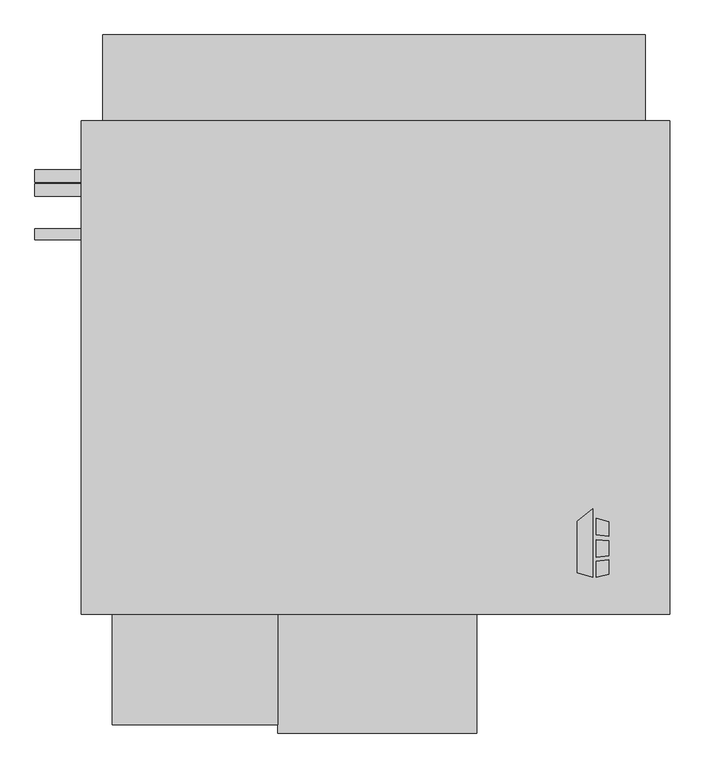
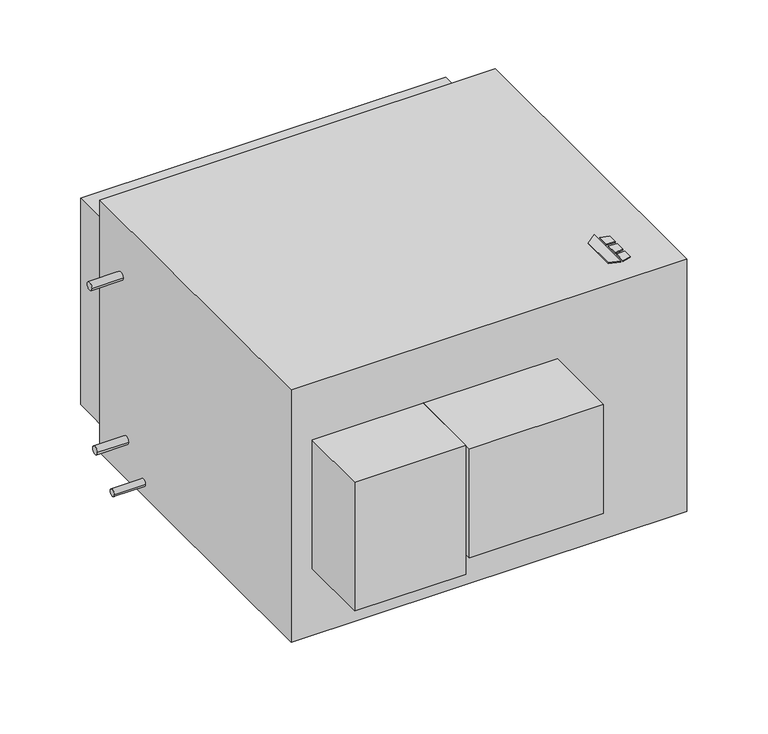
"""IFC4 building model written with IfcOpenShell, lengths in millimetres: proxy geometry, Horizontal_Direct_Drive_Blower_Coil_Unit_-_HDY_-_IEC_-_2-Pipe_Cool-EHeat_LH_2022 : Size 30 - 460v/60Hz/3Ph - 8 Row 30.0kW LH."""

import ifcopenshell
import ifcopenshell.guid

model = None  # the IFC model being written
_history = None  # IfcOwnerHistory: only IFC2X3 demands one
_inside = {}  # id of a spatial element -> (the spatial element, [elements in it])
_under = {}  # id of a project, library or spatial element -> (it, [spatial elements below it])
_declared = {}  # id of a project -> (the project, [libraries it declares])
_typed = {}  # id of a type object -> (the type object, [elements of that type])
_made_of = {}  # id of a material, layer set ... -> (it, [elements and type objects made of it])


def new_model(schema):
    """Start an empty IFC model of exactly this schema.

    Asked for "IFC4X3", IfcOpenShell would pick the latest addendum, in which some entities
    have other attributes; the version numbers below select the first issue.
    IFC2X3 requires an IfcOwnerHistory on every rooted entity: one is made here for all.
    """
    global model, _history
    if schema == "IFC4X3":
        model = ifcopenshell.file(schema_version=(4, 3, 0, 0))
    else:
        model = ifcopenshell.file(schema=schema)
    _inside.clear()
    _under.clear()
    _declared.clear()
    _typed.clear()
    _made_of.clear()
    _history = None
    if model.schema == "IFC2X3":
        org = make("IfcOrganization", Name="unknown")
        user = make(
            "IfcPersonAndOrganization",
            ThePerson=make("IfcPerson", FamilyName="unknown"),
            TheOrganization=org,
        )
        app = make(
            "IfcApplication",
            ApplicationDeveloper=org,
            Version="unknown",
            ApplicationFullName="unknown",
            ApplicationIdentifier="unknown",
        )
        _history = make(
            "IfcOwnerHistory",
            OwningUser=user,
            OwningApplication=app,
            ChangeAction="ADDED",
            CreationDate=0,
        )
    return model


def make(cls, **values):
    """One entity of the class cls with the attributes given. An attribute that is None is left unset."""
    return model.create_entity(
        cls, **{name: value for name, value in values.items() if value is not None}
    )


def rooted(cls, **values):
    """An entity with a GlobalId (a new one), such as an element, a storey or a relation."""
    return make(cls, GlobalId=ifcopenshell.guid.new(), OwnerHistory=_history, **values)


def si_unit(unit_type, name, prefix=None):
    """IfcSIUnit, for example si_unit("LENGTHUNIT", "METRE", prefix="MILLI")."""
    return make("IfcSIUnit", UnitType=unit_type, Prefix=prefix, Name=name)


def assignment(units):
    """IfcUnitAssignment: the units of a project."""
    return None if units is None else make("IfcUnitAssignment", Units=units)


def point(xyz):
    """IfcCartesianPoint."""
    return None if xyz is None else make("IfcCartesianPoint", Coordinates=xyz)


def direction(xyz):
    """IfcDirection."""
    return None if xyz is None else make("IfcDirection", DirectionRatios=xyz)


def frame(location, z_axis=None, x_axis=None):
    """IfcAxis2Placement3D, a coordinate frame: its origin and axes. An axis left out is left unset."""
    return make(
        "IfcAxis2Placement3D",
        Location=point(location),
        Axis=direction(z_axis),
        RefDirection=direction(x_axis),
    )


def frame_2d(location, x_axis=None):
    """IfcAxis2Placement2D, a coordinate frame in the plane: its origin and x axis."""
    return make(
        "IfcAxis2Placement2D", Location=point(location), RefDirection=direction(x_axis)
    )


def origin():
    """The frame at (0, 0, 0) with its axes left unset."""
    return frame((0.0, 0.0, 0.0))


def origin_with_axes():
    """The frame at (0, 0, 0) with the z axis (0, 0, 1) and the x axis (1, 0, 0) written out."""
    return frame((0.0, 0.0, 0.0), z_axis=(0.0, 0.0, 1.0), x_axis=(1.0, 0.0, 0.0))


def place(relative_to, where):
    """IfcLocalPlacement: puts the frame where relative to a parent placement (None: the world)."""
    return make(
        "IfcLocalPlacement", PlacementRelTo=relative_to, RelativePlacement=where
    )


def context(
    kind, dimensions, precision=None, world=None, true_north=None, identifier=None
):
    """IfcGeometricRepresentationContext, for example the 3D "Model" context."""
    return make(
        "IfcGeometricRepresentationContext",
        ContextIdentifier=identifier,
        ContextType=kind,
        CoordinateSpaceDimension=dimensions,
        Precision=precision,
        WorldCoordinateSystem=world,
        TrueNorth=true_north,
    )


def project(units=None, contexts=None):
    """IfcProject with its units and contexts."""
    return rooted(
        "IfcProject",
        Name="project",
        RepresentationContexts=contexts,
        UnitsInContext=assignment(units),
    )


def spatial(cls, under=None, at=None, **own):
    """A site, building, storey or space (cls), placed at a placement, below another one or the project."""
    s = rooted(cls, ObjectPlacement=at, **own)
    if under is not None:
        _under.setdefault(under.id(), (under, []))[1].append(s)
    return s


def polyline(points):
    """IfcPolyline through the points."""
    return make("IfcPolyline", Points=[point(p) for p in points])


def circle_curve(where, radius):
    """IfcCircle in the frame where."""
    return make("IfcCircle", Position=where, Radius=radius)


def trimmed(basis, trim1, trim2, sense, master):
    """IfcTrimmedCurve: the piece of a basis curve between two trims."""
    return make(
        "IfcTrimmedCurve",
        BasisCurve=basis,
        Trim1=trim1,
        Trim2=trim2,
        SenseAgreement=sense,
        MasterRepresentation=master,
    )


def segment(curve, same_sense, transition):
    """IfcCompositeCurveSegment."""
    return make(
        "IfcCompositeCurveSegment",
        Transition=transition,
        SameSense=same_sense,
        ParentCurve=curve,
    )


def composite_curve(segments, self_intersect=None):
    """IfcCompositeCurve: segments joined end to end."""
    return make("IfcCompositeCurve", Segments=segments, SelfIntersect=self_intersect)


def outline(outer, holes=None, kind="AREA"):
    """IfcArbitraryClosedProfileDef: a profile drawn as a closed curve; with holes, ...WithVoids."""
    if holes is None:
        return make("IfcArbitraryClosedProfileDef", ProfileType=kind, OuterCurve=outer)
    return make(
        "IfcArbitraryProfileDefWithVoids",
        ProfileType=kind,
        OuterCurve=outer,
        InnerCurves=holes,
    )


def extrude(swept, where, along, depth):
    """IfcExtrudedAreaSolid: the profile swept, set in the frame where, extruded along a direction by depth."""
    return make(
        "IfcExtrudedAreaSolid",
        SweptArea=swept,
        Position=where,
        ExtrudedDirection=direction(along),
        Depth=depth,
    )


def shape(context_of_items, identifier, shape_type, items):
    """IfcShapeRepresentation: the items that make up one representation, for example the "Body"."""
    return make(
        "IfcShapeRepresentation",
        ContextOfItems=context_of_items,
        RepresentationIdentifier=identifier,
        RepresentationType=shape_type,
        Items=items,
    )


def source(mapping_origin, context_of_items, identifier, shape_type, items):
    """IfcRepresentationMap: a shape defined once, which mapped items show again and again."""
    return make(
        "IfcRepresentationMap",
        MappingOrigin=mapping_origin,
        MappedRepresentation=shape(context_of_items, identifier, shape_type, items),
    )


def transform(
    local_origin,
    x_axis=None,
    y_axis=None,
    z_axis=None,
    scale=None,
    scale2=None,
    scale3=None,
    uniform=True,
):
    """IfcCartesianTransformationOperator3D, or its non-uniform kind. x_axis, y_axis, z_axis: its Axis1, 2, 3."""
    if uniform:
        return make(
            "IfcCartesianTransformationOperator3D",
            Axis1=direction(x_axis),
            Axis2=direction(y_axis),
            LocalOrigin=point(local_origin),
            Scale=scale,
            Axis3=direction(z_axis),
        )
    return make(
        "IfcCartesianTransformationOperator3DnonUniform",
        Axis1=direction(x_axis),
        Axis2=direction(y_axis),
        LocalOrigin=point(local_origin),
        Scale=scale,
        Axis3=direction(z_axis),
        Scale2=scale2,
        Scale3=scale3,
    )


def mapped(mapping_source, mapping_target):
    """IfcMappedItem: shows the shape of a source again, moved by a transform."""
    return make(
        "IfcMappedItem", MappingSource=mapping_source, MappingTarget=mapping_target
    )


def made_of(thing, what):
    """Note that an element or type object is made of a material, layer set ...; save() writes the relation."""
    if what is not None:
        _made_of.setdefault(what.id(), (what, []))[1].append(thing)
    return thing


def element(
    cls,
    number,
    at=None,
    inside=None,
    cuts=None,
    type_object=None,
    material=None,
    context=None,
    identifier="Body",
    shape_type=None,
    held_by="IfcProductDefinitionShape",
    body=None,
    shapes=None,
    **own,
):
    """One element of the class cls, such as IfcWall. Its Tag is "e" and its number.

    at: its placement. inside: the storey or other place that contains it. cuts: it is an
    opening in that element (IfcRelVoidsElement). A single representation is given by context,
    identifier, shape_type and body (its items); several are given by shapes. held_by: the class
    of the entity that holds the representations. save() writes the other relations.
    """
    e = rooted(cls, Tag="e%d" % number, ObjectPlacement=at, **own)
    if body is not None:
        shapes = [shape(context, identifier, shape_type, body)]
    if shapes is not None:
        e.Representation = make(held_by, Representations=shapes)
    if inside is not None:
        _inside.setdefault(inside.id(), (inside, []))[1].append(e)
    if cuts is not None:
        rooted(
            "IfcRelVoidsElement", RelatingBuildingElement=cuts, RelatedOpeningElement=e
        )
    if type_object is not None:
        _typed.setdefault(type_object.id(), (type_object, []))[1].append(e)
    return made_of(e, material)


def aggregate(whole, parts):
    """IfcRelAggregates: a whole, such as a stair, and the parts it consists of."""
    return rooted("IfcRelAggregates", RelatingObject=whole, RelatedObjects=parts)


def save(model, path):
    """Write the relations noted so far, then the file.

    IfcRelAggregates (storeys below a building ...), IfcRelContainedInSpatialStructure (elements
    in a storey), IfcRelDefinesByType, IfcRelAssociatesMaterial and IfcRelDeclares: one each for
    every whole, place, type object, material and project.
    """
    for whole, parts in _under.values():
        aggregate(whole, parts)
    for where, things in _inside.values():
        rooted(
            "IfcRelContainedInSpatialStructure",
            RelatedElements=things,
            RelatingStructure=where,
        )
    for kind, things in _typed.values():
        rooted("IfcRelDefinesByType", RelatedObjects=things, RelatingType=kind)
    for what, things in _made_of.values():
        rooted("IfcRelAssociatesMaterial", RelatedObjects=things, RelatingMaterial=what)
    for by, libraries in _declared.values():
        rooted("IfcRelDeclares", RelatingContext=by, RelatedDefinitions=libraries)
    model.write(path)


def mechanical_equipment_dd2f1071(model_context):
    return source(origin(), model_context, "Body", "SweptSolid", [
        extrude(outline(polyline([(-39.9980239, -337.5078476), (-7.4397272, -312.0705184), (-7.4397272, -454.025), (-39.9980239, -443.8054201), (-39.9980239, -337.5078476)])), origin_with_axes(), (0.0, 0.0, 1.0), 3.175),
        extrude(outline(polyline([(-0.6813942, -365.379852), (-0.6813942, -330.8999379), (25.4, -339.0865115), (25.4, -368.5822446), (-0.6813942, -365.379852)])), origin_with_axes(), (0.0, 0.0, 1.0), 3.175),
        extrude(outline(polyline([(25.4, -447.0365115), (-0.6813942, -454.025), (-0.6813942, -420.8036996), (25.4, -417.2618564), (25.4, -447.0365115)])), origin_with_axes(), (0.0, 0.0, 1.0), 3.175),
        extrude(outline(polyline([(25.4, -377.6638277), (25.4, -408.913983), (-0.6813942, -411.655248), (-0.6813942, -375.7975378), (25.4, -377.6638277)])), origin_with_axes(), (0.0, 0.0, 1.0), 3.175),
        extrude(outline(composite_curve([segment(trimmed(circle_curve(frame_2d((377.825, -177.8)), 12.7), [point((365.125, -177.8))], [point((390.525, -177.8))], False, "CARTESIAN"), True, "CONTINUOUS"), segment(trimmed(circle_curve(frame_2d((377.825, -177.8)), 12.7), [point((390.525, -177.8))], [point((365.125, -177.8))], False, "CARTESIAN"), True, "CONTINUOUS")], self_intersect=False)), frame((-1163.1025559, 0.0, 0.0), z_axis=(1.0, 0.0, 0.0), x_axis=(0.0, 1.0, 0.0)), (0.0, 0.0, 1.0), 96.3025559),
        extrude(outline(composite_curve([segment(trimmed(circle_curve(frame_2d((348.9715397, -695.3058174)), 12.7), [point((336.2715397, -695.3058174))], [point((361.6715397, -695.3058174))], False, "CARTESIAN"), True, "CONTINUOUS"), segment(trimmed(circle_curve(frame_2d((348.9715397, -695.3058174)), 12.7), [point((361.6715397, -695.3058174))], [point((336.2715397, -695.3058174))], False, "CARTESIAN"), True, "CONTINUOUS")], self_intersect=False)), frame((-1163.1025559, 0.0, 0.0), z_axis=(1.0, 0.0, 0.0), x_axis=(0.0, 1.0, 0.0)), (0.0, 0.0, 1.0), 96.3025559),
        extrude(outline(composite_curve([segment(trimmed(circle_curve(frame_2d((257.175, -777.8558174)), 11.1125), [point((246.0625, -777.8558174))], [point((268.2875, -777.8558174))], False, "CARTESIAN"), True, "CONTINUOUS"), segment(trimmed(circle_curve(frame_2d((257.175, -777.8558174)), 11.1125), [point((268.2875, -777.8558174))], [point((246.0625, -777.8558174))], False, "CARTESIAN"), True, "CONTINUOUS")], self_intersect=False)), frame((-1163.1025559, 0.0, 0.0), z_axis=(1.0, 0.0, 0.0), x_axis=(0.0, 1.0, 0.0)), (0.0, 0.0, 1.0), 96.3025559),
        extrude(outline(polyline([(152.4, 492.125), (152.4, -530.225), (-1066.8, -530.225), (-1066.8, 492.125), (152.4, 492.125)])), frame((0.0, 0.0, -822.3058174), z_axis=(0.0, 0.0, 1.0), x_axis=(1.0, 0.0, 0.0)), (0.0, 0.0, 1.0), 822.3058174),
        extrude(outline(polyline([(-660.4, -758.825), (-1003.3, -758.825), (-1003.3, -530.225), (-660.4, -530.225), (-660.4, -758.825)])), frame((0.0, 0.0, -603.2308174), z_axis=(0.0, 0.0, 1.0), x_axis=(1.0, 0.0, 0.0)), (0.0, 0.0, 1.0), 419.1),
        extrude(outline(polyline([(-1022.35, 669.925), (101.6, 669.925), (101.6, 492.125), (-1022.35, 492.125), (-1022.35, 669.925)])), frame((0.0, 0.0, -790.5558174), z_axis=(0.0, 0.0, 1.0), x_axis=(1.0, 0.0, 0.0)), (0.0, 0.0, 1.0), 673.1),
        extrude(outline(polyline([(-247.65, -776.2875), (-660.4, -776.2875), (-660.4, -530.225), (-247.65, -530.225), (-247.65, -776.2875)])), frame((0.0, 0.0, -539.7308174), z_axis=(0.0, 0.0, 1.0), x_axis=(1.0, 0.0, 0.0)), (0.0, 0.0, 1.0), 355.6),
    ])


if __name__ == "__main__":
    model = new_model("IFC4")
    model_context = context("Model", 3, world=origin())
    ifc_project = project(units=[si_unit("LENGTHUNIT", "METRE", prefix="MILLI")], contexts=[model_context])
    site = spatial("IfcSite", under=ifc_project)
    building = spatial("IfcBuilding", under=site)
    placement = place(None, origin())
    mechanical_equipment_shape = mechanical_equipment_dd2f1071(model_context)
    element("IfcBuildingElementProxy", 1, Name="Horizontal_Direct_Drive_Blower_Coil_Unit_-_HDY_-_IEC_-_2-Pipe_Cool-EHeat_LH_2022 : Size 30 - 460v/60Hz/3Ph - 8 Row 30.0kW LH", ObjectType="Horizontal_Direct_Drive_Blower_Coil_Unit_-_HDY_-_IEC_-_2-Pipe_Cool-EHeat_LH_2022 : Size 30 - 460v/60Hz/3Ph - 8 Row 30.0kW LH", at=placement, inside=building, context=model_context, shape_type="MappedRepresentation", body=[
        mapped(mechanical_equipment_shape, transform((0.0, 0.0, 0.0), x_axis=(1.0, 0.0, 0.0), y_axis=(0.0, 1.0, 0.0), z_axis=(0.0, 0.0, 1.0))),
    ])
    save(model, "model.ifc")
